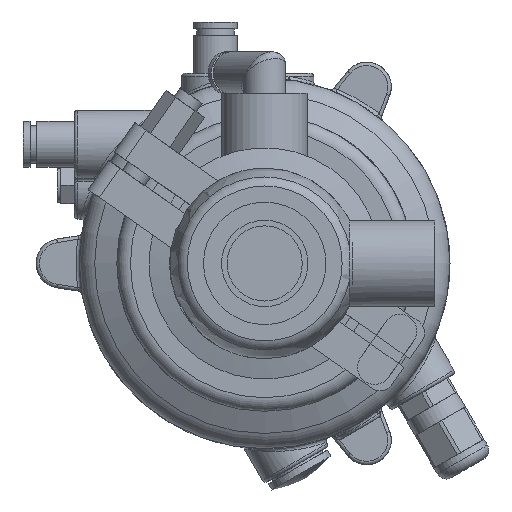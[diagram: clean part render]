
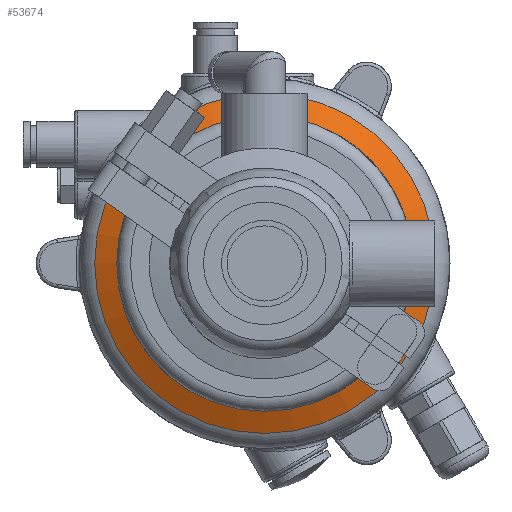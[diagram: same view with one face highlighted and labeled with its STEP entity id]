
A CAD part, front view. The second image highlights one B-rep face of the part: STEP entity #53674.
In plain terms, the highlighted conical face has half-angle 64 degrees and reference radius 36 mm.
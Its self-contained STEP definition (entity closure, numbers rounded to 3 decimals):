
#20 = FACE_OUTER_BOUND ( 'NONE', #16749, .T. ) ;
#252 = DIRECTION ( 'NONE',  ( 0., 0., -1. ) ) ;
#1843 = CARTESIAN_POINT ( 'NONE',  ( 0., 0., -36. ) ) ;
#4584 = DIRECTION ( 'NONE',  ( 0., 1., 0. ) ) ;
#7022 = VERTEX_POINT ( 'NONE', #25618 ) ;
#7940 = DIRECTION ( 'NONE',  ( 0., -1., 0. ) ) ;
#11647 = DIRECTION ( 'NONE',  ( 0., 0., -1. ) ) ;
#12311 = AXIS2_PLACEMENT_3D ( 'NONE', #27784, #4584, #50631 ) ;
#13005 = CIRCLE ( 'NONE', #21760, 50.007 ) ;
#13822 = CIRCLE ( 'NONE', #50819, 36. ) ;
#15875 = VERTEX_POINT ( 'NONE', #1843 ) ;
#16749 = EDGE_LOOP ( 'NONE', ( #21476 ) ) ;
#17715 = FACE_BOUND ( 'NONE', #31579, .T. ) ;
#21476 = ORIENTED_EDGE ( 'NONE', *, *, #38349, .T. ) ;
#21760 = AXIS2_PLACEMENT_3D ( 'NONE', #32284, #28309, #252 ) ;
#25618 = CARTESIAN_POINT ( 'NONE',  ( 0., 6.832, -50.007 ) ) ;
#27784 = CARTESIAN_POINT ( 'NONE',  ( 0., 0., 0. ) ) ;
#28309 = DIRECTION ( 'NONE',  ( 0., -1., 0. ) ) ;
#31579 = EDGE_LOOP ( 'NONE', ( #56863 ) ) ;
#32284 = CARTESIAN_POINT ( 'NONE',  ( 0., 6.832, 0. ) ) ;
#37138 = EDGE_CURVE ( 'NONE', #15875, #15875, #13822, .T. ) ;
#38349 = EDGE_CURVE ( 'NONE', #7022, #7022, #13005, .T. ) ;
#48525 = CARTESIAN_POINT ( 'NONE',  ( 0., 0., 0. ) ) ;
#50305 = CONICAL_SURFACE ( 'NONE', #12311, 36., 1.117 ) ;
#50631 = DIRECTION ( 'NONE',  ( 0., 0., 1. ) ) ;
#50819 = AXIS2_PLACEMENT_3D ( 'NONE', #48525, #7940, #11647 ) ;
#53674 = ADVANCED_FACE ( 'NONE', ( #20, #17715 ), #50305, .T. ) ;
#56863 = ORIENTED_EDGE ( 'NONE', *, *, #37138, .F. ) ;
